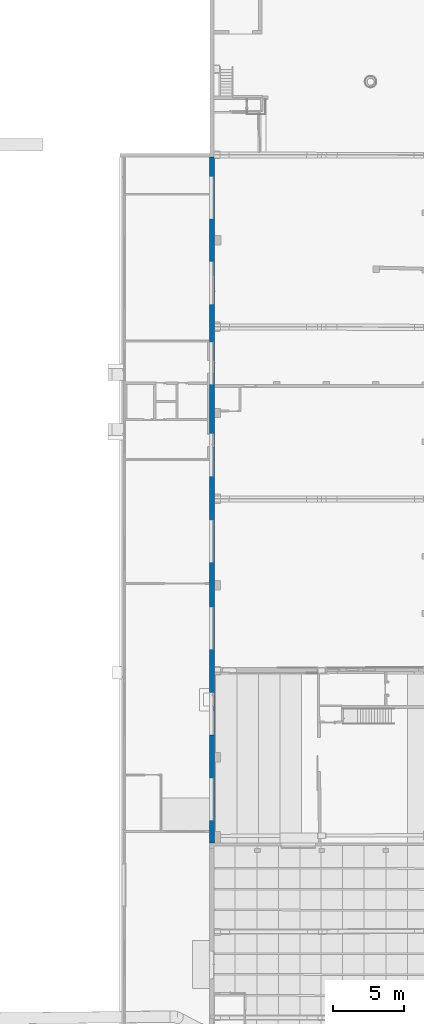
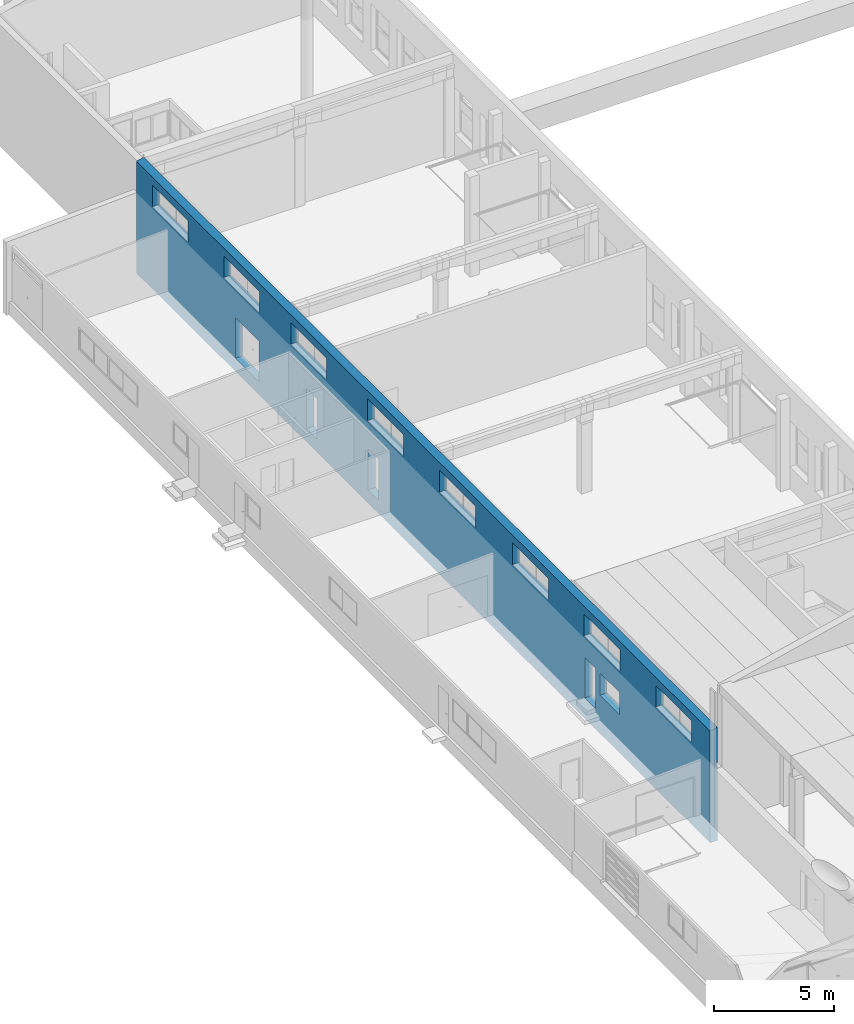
# One storey, part 106 of 301: 1 wall, 13 openings.
"""IFC2X3 building model written with IfcOpenShell, lengths in millimetres."""

from ifc_helpers import new_model, entity, si_unit, converted_unit, derived_unit, money_unit, direction, frame, origin_with_axes, place, context, subcontext, project, spatial, faceted_brep, material, type_object, element, save


model = new_model("IFC2X3")

# Units and contexts
model_context = context("Model", 3, precision=0.01, world=origin_with_axes(), true_north=direction((0.0, 1.0)))
body_context = subcontext(model_context, "Body", "Model", "MODEL_VIEW")
ifc_project = project(units=[si_unit("LENGTHUNIT", "METRE", prefix="MILLI"), si_unit("AREAUNIT", "SQUARE_METRE"), si_unit("VOLUMEUNIT", "CUBIC_METRE"), converted_unit("PLANEANGLEUNIT", "DEGREE", entity("IfcPlaneAngleMeasure", 0.0174532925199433), si_unit("PLANEANGLEUNIT", "RADIAN"), dimensions=[0, 0, 0, 0, 0, 0, 0]), money_unit("EUR"), converted_unit("TIMEUNIT", "Year", entity("IfcTimeMeasure", 31557600.0), si_unit("TIMEUNIT", "SECOND"), dimensions=[0, 0, 1, 0, 0, 0, 0]), si_unit("MASSUNIT", "GRAM", prefix="KILO"), si_unit("THERMODYNAMICTEMPERATUREUNIT", "DEGREE_CELSIUS"), si_unit("LUMINOUSINTENSITYUNIT", "LUMEN"), si_unit("ENERGYUNIT", "JOULE", prefix="MEGA"), derived_unit("THERMALCONDUCTANCEUNIT", [(si_unit("POWERUNIT", "WATT"), 1), (si_unit("LENGTHUNIT", "METRE"), -1), (si_unit("THERMODYNAMICTEMPERATUREUNIT", "KELVIN"), -1)]), derived_unit("SPECIFICHEATCAPACITYUNIT", [(si_unit("ENERGYUNIT", "JOULE"), 1), (si_unit("MASSUNIT", "GRAM", prefix="KILO"), -1), (si_unit("THERMODYNAMICTEMPERATUREUNIT", "KELVIN"), -1)]), derived_unit("MASSDENSITYUNIT", [(si_unit("MASSUNIT", "GRAM", prefix="KILO"), 1), (si_unit("VOLUMEUNIT", "CUBIC_METRE"), -1)])], contexts=[model_context])

# Site, building, storey
site_placement = place(None, frame((0.0, 0.0, 8650.0), z_axis=(0.0, 0.0, 1.0), x_axis=(1.0, 0.0, 0.0)))
site = spatial("IfcSite", under=ifc_project, at=site_placement, Name="43301:001:0844", CompositionType="ELEMENT")
building_placement = place(site_placement, origin_with_axes())
building = spatial("IfcBuilding", under=site, at=building_placement, Name="Kuressaare Ametikooli tuulikute mehaanikute õppekorpus", CompositionType="ELEMENT")
storey_placement = place(building_placement, origin_with_axes())
storey = spatial("IfcBuildingStorey", under=building, at=storey_placement, Name="1.korrus", CompositionType="ELEMENT", Elevation=0.0)

# Wall, openings
ifc_material = material(Name="GENEERILINE - KONSTRUKTRIOON")
wall_type = type_object("IfcWallType", Name="GENEERILINE - KONSTRUKTRIOON 360", PredefinedType="NOTDEFINED")
wall_placement = place(storey_placement, frame((87898.75644683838, 110588.8442993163, -1000.0), z_axis=(0.0, 0.0, 1.0), x_axis=(0.0, -1.0, 0.0)))
wall = element("IfcWall", 1, at=wall_placement, inside=storey, type_object=wall_type, material=ifc_material, Name="SS-XX", context=body_context, shape_type="Brep", body=[
    faceted_brep([(269.9996938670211, 0.0, 5695.980085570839), (270.0024499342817, 359.9999999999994, 5780.099571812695), (270.0024499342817, 359.9999999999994, 4670.000000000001), (270.0021436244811, 319.9895362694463, 4670.000000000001), (270.0021436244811, 319.9895362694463, 669.9999999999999), (270.0024499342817, 359.9999999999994, 669.9999999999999), (270.0024499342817, 359.9999999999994, 0.0), (269.9996938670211, 0.0, 0.0), (48270.56089298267, 360.0000007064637, 5780.099568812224), (48270.56220476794, 7.531752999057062e-10, 5695.980083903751), (48270.55916165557, 359.9999999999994, 4705.0), (47778.5988258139, 360.0000000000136, 4705.0), (47778.59882581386, 360.0000000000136, 5305.0), (47672.08869377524, 360.0000000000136, 5305.0), (47672.08869377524, 360.0000000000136, 5205.0), (47742.08911407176, 360.0000000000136, 5144.999999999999), (47742.08911407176, 360.0000000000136, 4901.665496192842), (47687.08878383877, 360.0000000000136, 4864.998829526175), (47687.08878383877, 360.0000000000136, 4705.0), (47461.95359144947, 359.9999999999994, 4705.0), (47461.95359144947, 359.9999999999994, 1045.0), (48270.55916165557, 359.9999999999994, 1045.0), (48270.56059295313, 359.9999999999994, 0.0), (351.4040718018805, 359.9999999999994, 669.9999999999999), (351.4040718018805, 359.9999999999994, 4670.000000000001), (36339.27712946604, 359.9999999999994, 1044.948629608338), (36339.27712946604, 359.9999999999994, 844.9486296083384), (48270.54238474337, 359.9994725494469, 844.9486296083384), (48270.54238474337, 359.9994725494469, 1044.948629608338), (18506.49852388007, 359.9999999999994, 669.9999999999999), (18506.49852388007, 359.9999999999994, 4820.0), (17866.49843582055, 359.9999999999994, 4820.0), (17866.49843582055, 359.9999999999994, 3065.0), (16384.88347704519, 359.9999999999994, 3065.0), (16384.88347704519, 359.9999999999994, 2890.0), (17866.49843582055, 359.9999999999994, 2890.0), (17866.49843582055, 359.9999999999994, 669.9999999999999), (30562.73090852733, 359.9999999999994, 669.9999999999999), (30562.73090852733, 359.9999999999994, 4820.0), (29922.7308204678, 359.9999999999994, 4820.0), (29922.7308204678, 359.9999999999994, 669.9999999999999), (42598.33752295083, 359.9999999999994, 1045.0), (42598.33752295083, 359.9999999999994, 4705.0), (41928.33752282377, 359.9999999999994, 4705.0), (41928.33752282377, 359.9999999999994, 1045.0), (7589.953886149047, 359.9999999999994, 4189.999999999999), (10574.95388614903, 359.9999999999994, 4189.999999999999), (10574.95388614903, 359.9999999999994, 5290.256977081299), (7589.953886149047, 359.9999999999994, 5290.256977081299), (4604.953886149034, 360.0000000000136, 5290.256977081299), (1619.953886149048, 360.0000000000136, 5290.256977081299), (1619.953886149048, 360.0000000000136, 4189.999999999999), (4604.953886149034, 360.0000000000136, 4189.999999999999), (13199.88347704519, 360.0000000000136, 4189.999999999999), (16184.88347704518, 360.0000000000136, 4189.999999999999), (16184.88347704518, 360.0000000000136, 5290.256977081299), (13199.88347704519, 360.0000000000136, 5290.256977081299), (22616.90572710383, 359.9999999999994, 5290.256977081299), (19631.90572710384, 359.9999999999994, 5290.256977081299), (19631.90572710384, 359.9999999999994, 4189.999999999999), (22616.90572710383, 359.9999999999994, 4189.999999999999), (25653.17193383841, 360.0000000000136, 4189.999999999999), (28638.17193383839, 360.0000000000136, 4189.999999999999), (28638.17193383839, 360.0000000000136, 5290.256977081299), (25653.17193383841, 360.0000000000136, 5290.256977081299), (34745.24283768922, 360.0000000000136, 5290.256977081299), (31760.24283768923, 360.0000000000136, 5290.256977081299), (31760.24283768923, 360.0000000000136, 4189.999999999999), (34745.24283768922, 360.0000000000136, 4189.999999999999), (37736.73588862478, 359.9999999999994, 4189.999999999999), (40721.73588862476, 359.9999999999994, 4189.999999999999), (40721.73588862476, 359.9999999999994, 5290.256977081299), (37736.73588862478, 359.9999999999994, 5290.256977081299), (46718.26084536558, 359.9999999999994, 5290.256977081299), (43733.26084536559, 359.9999999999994, 5290.256977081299), (43733.26084536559, 359.9999999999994, 4189.999999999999), (46718.26084536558, 359.9999999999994, 4189.999999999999), (40714.16374206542, 360.0000000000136, 1947.257518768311), (40714.16374206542, 360.0000000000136, 3087.25751876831), (39044.16374206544, 360.0000000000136, 3087.25751876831), (39044.16374206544, 360.0000000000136, 1947.257518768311), (8565.934094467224, 359.9999999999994, 2730.0), (8565.934094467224, 359.9999999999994, 669.9999999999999), (10545.93409446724, 359.9999999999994, 669.9999999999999), (10545.93409446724, 359.9999999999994, 2730.0), (15395.95735128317, 359.9999999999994, 669.9999999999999), (15395.95735128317, 359.9999999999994, 2740.0), (14495.95735128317, 359.9999999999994, 2740.0), (14495.95735128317, 359.9999999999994, 669.9999999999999), (37794.74311828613, 360.0000000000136, 3105.0), (37794.74311828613, 360.0000000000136, 1045.0), (38674.74311828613, 360.0000000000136, 1045.0), (38674.74311828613, 360.0000000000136, 3105.0), (20550.50682035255, 360.0000000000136, 669.9999999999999), (20550.50682035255, 360.0000000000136, 2770.0), (19650.50682035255, 360.0000000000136, 2770.0), (19650.50682035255, 360.0000000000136, 669.9999999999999), (351.4040718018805, 319.9895362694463, 4670.000000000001), (351.4040718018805, 319.9895362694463, 669.9999999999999), (48270.56200616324, 0.0, 0.0), (10574.95388614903, 0.0, 4189.999999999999), (7589.953886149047, 0.0, 4189.999999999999), (7589.953886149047, 0.0, 5290.256977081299), (10574.95388614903, 0.0, 5290.256977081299), (1619.953886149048, 0.0, 5290.256977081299), (4604.953886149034, 0.0, 5290.256977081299), (4604.953886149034, 0.0, 4189.999999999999), (1619.953886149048, 0.0, 4189.999999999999), (16184.88347704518, 0.0, 4189.999999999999), (13199.88347704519, 0.0, 4189.999999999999), (13199.88347704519, 0.0, 5290.256977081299), (16184.88347704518, 0.0, 5290.256977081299), (19631.90572710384, 0.0, 5290.256977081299), (22616.90572710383, 0.0, 5290.256977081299), (22616.90572710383, 0.0, 4189.999999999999), (19631.90572710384, 0.0, 4189.999999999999), (28638.17193383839, 0.0, 4189.999999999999), (25653.17193383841, 0.0, 4189.999999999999), (25653.17193383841, 0.0, 5290.256977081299), (28638.17193383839, 0.0, 5290.256977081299), (31760.24283768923, 0.0, 5290.256977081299), (34745.24283768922, 0.0, 5290.256977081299), (34745.24283768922, 0.0, 4189.999999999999), (31760.24283768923, 0.0, 4189.999999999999), (40721.73588862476, 0.0, 4189.999999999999), (37736.73588862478, 0.0, 4189.999999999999), (37736.73588862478, 0.0, 5290.256977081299), (40721.73588862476, 0.0, 5290.256977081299), (43733.26084536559, 0.0, 5290.256977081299), (46718.26084536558, 0.0, 5290.256977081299), (46718.26084536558, 0.0, 4189.999999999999), (43733.26084536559, 0.0, 4189.999999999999), (40714.16374206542, 0.0, 3087.25751876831), (40714.16374206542, 0.0, 1947.257518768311), (39044.16374206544, 0.0, 1947.257518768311), (39044.16374206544, 0.0, 3087.25751876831), (8565.934094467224, 0.0, 669.9999999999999), (8565.934094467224, 0.0, 2730.0), (10545.93409446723, 0.0, 2730.0), (10545.93409446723, 0.0, 669.9999999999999), (15395.95735128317, 0.0, 2740.0), (15395.95735128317, 0.0, 669.9999999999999), (14495.95735128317, 0.0, 669.9999999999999), (14495.95735128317, 0.0, 2740.0), (37794.74311828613, 0.0, 1045.0), (37794.74311828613, 0.0, 3105.0), (38674.74311828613, 0.0, 3105.0), (38674.74311828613, 0.0, 1045.0), (20550.50682035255, 0.0, 2770.0), (20550.50682035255, 0.0, 669.9999999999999), (19650.50682035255, 0.0, 669.9999999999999), (19650.50682035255, 0.0, 2770.0), (48270.55916165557, 359.7521975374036, 1045.0), (48270.55916165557, 359.7521975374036, 4705.0), (47707.08976263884, 359.7521975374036, 4705.0), (47687.08988272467, 359.6828913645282, 4704.998829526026), (47687.08988272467, 359.6828913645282, 4864.998829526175), (47742.08955249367, 359.8734833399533, 4901.665496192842), (47742.08955249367, 359.8734833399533, 5144.999999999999), (47672.08997278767, 359.6309117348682, 5205.0), (47672.08997278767, 359.6309117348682, 5305.0), (47687.08964255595, 359.7521975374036, 4705.0), (47461.95359144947, 359.7521975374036, 4705.0), (47461.95359144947, 359.7521975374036, 1045.0), (36339.26629089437, 358.075964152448, 1044.948629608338), (36339.26629089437, 358.075964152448, 844.9486296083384), (18506.49852388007, 359.7521975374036, 669.9999999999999), (18506.49852388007, 359.7521975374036, 4820.0), (17866.49843582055, 359.7521975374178, 4820.0), (17866.49843582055, 359.7521975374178, 3065.0), (17866.49843582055, 359.7521975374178, 2890.0), (17866.49843582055, 359.7521975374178, 669.9999999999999), (30562.73090852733, 359.7521975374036, 669.9999999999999), (30562.73090852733, 359.7521975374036, 4820.0), (29922.7308204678, 359.7521975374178, 4820.0), (29922.7308204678, 359.7521975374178, 669.9999999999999), (42598.33752295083, 359.7521975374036, 1045.0), (42598.33752295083, 359.7521975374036, 4705.0), (41928.33752282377, 359.7521975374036, 4705.0), (41928.33752282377, 359.7521975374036, 1045.0)], [[[0, 1, 2, 3, 4, 5, 6, 7]], [[8, 1, 0, 9]], [[1, 8, 10, 11, 12, 13, 14, 15, 16, 17, 18, 19, 20, 21, 22, 6, 5, 23, 24, 2], [25, 26, 27, 28], [29, 30, 31, 32, 33, 34, 35, 36], [37, 38, 39, 40], [41, 42, 43, 44], [45, 46, 47, 48], [49, 50, 51, 52], [53, 54, 55, 56], [57, 58, 59, 60], [61, 62, 63, 64], [65, 66, 67, 68], [69, 70, 71, 72], [73, 74, 75, 76], [77, 78, 79, 80], [81, 82, 83, 84], [85, 86, 87, 88], [89, 90, 91, 92], [93, 94, 95, 96]], [[3, 2, 24, 97]], [[4, 3, 97, 98]], [[23, 5, 4, 98]], [[99, 7, 6, 22]], [[9, 0, 7, 99], [100, 101, 102, 103], [104, 105, 106, 107], [108, 109, 110, 111], [112, 113, 114, 115], [116, 117, 118, 119], [120, 121, 122, 123], [124, 125, 126, 127], [128, 129, 130, 131], [132, 133, 134, 135], [136, 137, 138, 139], [140, 141, 142, 143], [144, 145, 146, 147], [148, 149, 150, 151]], [[8, 9, 99, 22, 21, 152, 153, 10]], [[154, 11, 10, 153]], [[154, 155, 156, 157, 158, 159, 160, 12, 11]], [[13, 12, 160]], [[159, 14, 13, 160]], [[158, 15, 14, 159]], [[157, 16, 15, 158]], [[156, 17, 16, 157]], [[161, 18, 17, 156, 155]], [[19, 18, 161, 162]], [[20, 19, 162, 163]], [[21, 20, 163, 152]], [[24, 23, 98, 97]], [[164, 165, 26, 25]], [[165, 27, 26]], [[28, 27, 165, 164]], [[164, 25, 28]], [[30, 29, 166, 167]], [[31, 30, 167, 168]], [[32, 31, 168, 169]], [[169, 33, 32]], [[169, 170, 34, 33]], [[35, 34, 170]], [[36, 35, 170, 171]], [[29, 36, 171, 166]], [[38, 37, 172, 173]], [[39, 38, 173, 174]], [[40, 39, 174, 175]], [[37, 40, 175, 172]], [[42, 41, 176, 177]], [[43, 42, 177, 178]], [[44, 43, 178, 179]], [[41, 44, 179, 176]], [[100, 46, 45, 101]], [[103, 47, 46, 100]], [[103, 102, 48, 47]], [[102, 101, 45, 48]], [[50, 49, 105, 104]], [[51, 50, 104, 107]], [[51, 107, 106, 52]], [[52, 106, 105, 49]], [[108, 54, 53, 109]], [[111, 55, 54, 108]], [[111, 110, 56, 55]], [[110, 109, 53, 56]], [[58, 57, 113, 112]], [[59, 58, 112, 115]], [[59, 115, 114, 60]], [[60, 114, 113, 57]], [[116, 62, 61, 117]], [[119, 63, 62, 116]], [[119, 118, 64, 63]], [[118, 117, 61, 64]], [[66, 65, 121, 120]], [[67, 66, 120, 123]], [[67, 123, 122, 68]], [[68, 122, 121, 65]], [[124, 70, 69, 125]], [[127, 71, 70, 124]], [[127, 126, 72, 71]], [[126, 125, 69, 72]], [[74, 73, 129, 128]], [[75, 74, 128, 131]], [[75, 131, 130, 76]], [[76, 130, 129, 73]], [[77, 133, 132, 78]], [[79, 78, 132, 135]], [[80, 79, 135, 134]], [[80, 134, 133, 77]], [[137, 136, 82, 81]], [[139, 83, 82, 136]], [[138, 84, 83, 139]], [[138, 137, 81, 84]], [[85, 141, 140, 86]], [[87, 86, 140, 143]], [[88, 87, 143, 142]], [[88, 142, 141, 85]], [[145, 144, 90, 89]], [[147, 91, 90, 144]], [[146, 92, 91, 147]], [[146, 145, 89, 92]], [[93, 149, 148, 94]], [[95, 94, 148, 151]], [[96, 95, 151, 150]], [[96, 150, 149, 93]], [[163, 162, 161, 154, 153, 152]], [[161, 155, 154]], [[166, 171, 170, 169, 168, 167]], [[175, 174, 173, 172]], [[179, 178, 177, 176]]]),
])
opening_1_placement = place(wall_placement, frame((9082.45388614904, 0.0, 4189.999999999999), z_axis=(0.0, 0.0, 1.0), x_axis=(1.0, 0.0, 0.0)))
element("IfcOpeningElement", 2, at=opening_1_placement, cuts=wall, Name="VA-XX", context=body_context, shape_type="Brep", body=[
    faceted_brep([(1492.499999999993, 230.000000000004, 0.0), (1492.499999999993, 230.000000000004, 1100.256977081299), (1492.499999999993, -1.000000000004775, 1100.256977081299), (1492.499999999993, -1.000000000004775, 0.0), (1492.499999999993, 361.0000000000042, 0.0), (1492.499999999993, 361.0000000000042, 1100.256977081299), (-1492.499999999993, 230.000000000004, 1100.256977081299), (-1492.499999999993, -1.000000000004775, 1100.256977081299), (-1492.499999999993, 361.0000000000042, 1100.256977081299), (-1492.499999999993, -1.000000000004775, 0.0), (-1492.499999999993, 230.000000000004, 0.0), (-1492.499999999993, 361.0000000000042, 0.0)], [[[0, 1, 2, 3]], [[1, 0, 4, 5]], [[6, 7, 2, 1, 5, 8]], [[7, 9, 3, 2]], [[0, 3, 9, 10, 11, 4]], [[5, 4, 11, 8]], [[6, 10, 9, 7]], [[10, 6, 8, 11]]]),
])
opening_2_placement = place(wall_placement, frame((3112.453886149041, 0.0, 4189.999999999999), z_axis=(0.0, 0.0, 1.0), x_axis=(1.0, 0.0, 0.0)))
element("IfcOpeningElement", 3, at=opening_2_placement, cuts=wall, Name="VA-XX", context=body_context, shape_type="Brep", body=[
    faceted_brep([(1492.499999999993, 239.9999999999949, 0.0), (1492.499999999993, 239.9999999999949, 1100.256977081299), (1492.499999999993, -1.000000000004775, 1100.256977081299), (1492.499999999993, -1.000000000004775, 0.0), (1492.499999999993, 361.0000000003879, 0.0), (1492.499999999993, 361.0000000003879, 1100.256977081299), (-1492.499999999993, 240.0000000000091, 1100.256977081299), (-1492.499999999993, -1.000000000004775, 1100.256977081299), (-1492.499999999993, 361.0000000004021, 1100.256977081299), (-1492.499999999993, -1.000000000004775, 0.0), (-1492.499999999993, 240.0000000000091, 0.0), (-1492.499999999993, 361.0000000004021, 0.0)], [[[0, 1, 2, 3]], [[1, 0, 4, 5]], [[6, 7, 2, 1, 5, 8]], [[7, 9, 3, 2]], [[0, 3, 9, 10, 11, 4]], [[5, 4, 11, 8]], [[6, 10, 9, 7]], [[10, 6, 8, 11]]]),
])
opening_3_placement = place(wall_placement, frame((21124.40572710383, 0.0, 4189.999999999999), z_axis=(0.0, 0.0, 1.0), x_axis=(1.0, 0.0, 0.0)))
element("IfcOpeningElement", 4, at=opening_3_placement, cuts=wall, Name="VA-XX", context=body_context, shape_type="Brep", body=[
    faceted_brep([(1492.499999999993, 230.000000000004, 0.0), (1492.499999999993, 230.000000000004, 1100.256977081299), (1492.499999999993, -1.000000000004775, 1100.256977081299), (1492.499999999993, -1.000000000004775, 0.0), (1492.499999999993, 361.0000000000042, 0.0), (1492.499999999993, 361.0000000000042, 1100.256977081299), (-1492.499999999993, 230.000000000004, 1100.256977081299), (-1492.499999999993, -1.000000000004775, 1100.256977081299), (-1492.499999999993, 361.0000000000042, 1100.256977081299), (-1492.499999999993, -1.000000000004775, 0.0), (-1492.499999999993, 230.000000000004, 0.0), (-1492.499999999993, 361.0000000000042, 0.0)], [[[0, 1, 2, 3]], [[1, 0, 4, 5]], [[6, 7, 2, 1, 5, 8]], [[7, 9, 3, 2]], [[0, 3, 9, 10, 11, 4]], [[5, 4, 11, 8]], [[6, 10, 9, 7]], [[10, 6, 8, 11]]]),
])
opening_4_placement = place(wall_placement, frame((14692.38347704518, 0.0, 4189.999999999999), z_axis=(0.0, 0.0, 1.0), x_axis=(1.0, 0.0, 0.0)))
element("IfcOpeningElement", 5, at=opening_4_placement, cuts=wall, Name="VA-XX", context=body_context, shape_type="Brep", body=[
    faceted_brep([(1492.499999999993, 230.000000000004, 0.0), (1492.499999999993, 230.000000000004, 1100.256977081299), (1492.499999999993, -1.000000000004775, 1100.256977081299), (1492.499999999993, -1.000000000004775, 0.0), (1492.499999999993, 361.0000000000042, 0.0), (1492.499999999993, 361.0000000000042, 1100.256977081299), (-1492.499999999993, 230.000000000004, 1100.256977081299), (-1492.499999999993, -1.000000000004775, 1100.256977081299), (-1492.499999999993, 361.0000000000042, 1100.256977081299), (-1492.499999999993, -1.000000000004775, 0.0), (-1492.499999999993, 230.000000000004, 0.0), (-1492.499999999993, 361.0000000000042, 0.0)], [[[0, 1, 2, 3]], [[1, 0, 4, 5]], [[6, 7, 2, 1, 5, 8]], [[7, 9, 3, 2]], [[0, 3, 9, 10, 11, 4]], [[5, 4, 11, 8]], [[6, 10, 9, 7]], [[10, 6, 8, 11]]]),
])
opening_5_placement = place(wall_placement, frame((33252.74283768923, 0.0, 4189.999999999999), z_axis=(0.0, 0.0, 1.0), x_axis=(1.0, 0.0, 0.0)))
element("IfcOpeningElement", 6, at=opening_5_placement, cuts=wall, Name="VA-XX", context=body_context, shape_type="Brep", body=[
    faceted_brep([(1492.499999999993, 230.000000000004, 0.0), (1492.499999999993, 230.000000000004, 1100.256977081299), (1492.499999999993, -1.000000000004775, 1100.256977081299), (1492.499999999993, -1.000000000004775, 0.0), (1492.499999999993, 361.0000000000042, 0.0), (1492.499999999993, 361.0000000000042, 1100.256977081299), (-1492.499999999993, 230.000000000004, 1100.256977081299), (-1492.499999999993, -1.000000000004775, 1100.256977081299), (-1492.499999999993, 361.0000000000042, 1100.256977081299), (-1492.499999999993, -1.000000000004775, 0.0), (-1492.499999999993, 230.000000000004, 0.0), (-1492.499999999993, 361.0000000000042, 0.0)], [[[0, 1, 2, 3]], [[1, 0, 4, 5]], [[6, 7, 2, 1, 5, 8]], [[7, 9, 3, 2]], [[0, 3, 9, 10, 11, 4]], [[5, 4, 11, 8]], [[6, 10, 9, 7]], [[10, 6, 8, 11]]]),
])
opening_6_placement = place(wall_placement, frame((27145.6719338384, 0.0, 4189.999999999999), z_axis=(0.0, 0.0, 1.0), x_axis=(1.0, 0.0, 0.0)))
element("IfcOpeningElement", 7, at=opening_6_placement, cuts=wall, Name="VA-XX", context=body_context, shape_type="Brep", body=[
    faceted_brep([(1492.499999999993, 230.000000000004, 0.0), (1492.499999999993, 230.000000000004, 1100.256977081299), (1492.499999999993, -1.000000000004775, 1100.256977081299), (1492.499999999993, -1.000000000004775, 0.0), (1492.499999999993, 361.0000000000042, 0.0), (1492.499999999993, 361.0000000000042, 1100.256977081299), (-1492.499999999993, 230.000000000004, 1100.256977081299), (-1492.499999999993, -1.000000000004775, 1100.256977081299), (-1492.499999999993, 361.0000000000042, 1100.256977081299), (-1492.499999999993, -1.000000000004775, 0.0), (-1492.499999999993, 230.000000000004, 0.0), (-1492.499999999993, 361.0000000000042, 0.0)], [[[0, 1, 2, 3]], [[1, 0, 4, 5]], [[6, 7, 2, 1, 5, 8]], [[7, 9, 3, 2]], [[0, 3, 9, 10, 11, 4]], [[5, 4, 11, 8]], [[6, 10, 9, 7]], [[10, 6, 8, 11]]]),
])
opening_7_placement = place(wall_placement, frame((39229.23588862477, 0.0, 4189.999999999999), z_axis=(0.0, 0.0, 1.0), x_axis=(1.0, 0.0, 0.0)))
element("IfcOpeningElement", 8, at=opening_7_placement, cuts=wall, Name="VA-XX", context=body_context, shape_type="Brep", body=[
    faceted_brep([(1492.499999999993, 249.9999999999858, 0.0), (1492.499999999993, 249.9999999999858, 1100.256977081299), (1492.499999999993, -1.000000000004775, 1100.256977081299), (1492.499999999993, -1.000000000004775, 0.0), (1492.499999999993, 361.0000000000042, 0.0), (1492.499999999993, 361.0000000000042, 1100.256977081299), (-1492.499999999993, 249.9999999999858, 1100.256977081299), (-1492.499999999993, -1.000000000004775, 1100.256977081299), (-1492.499999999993, 361.0000000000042, 1100.256977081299), (-1492.499999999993, -1.000000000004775, 0.0), (-1492.499999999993, 249.9999999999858, 0.0), (-1492.499999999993, 361.0000000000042, 0.0)], [[[0, 1, 2, 3]], [[1, 0, 4, 5]], [[6, 7, 2, 1, 5, 8]], [[7, 9, 3, 2]], [[0, 3, 9, 10, 11, 4]], [[5, 4, 11, 8]], [[6, 10, 9, 7]], [[10, 6, 8, 11]]]),
])
opening_8_placement = place(wall_placement, frame((45225.76084536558, 0.0, 4189.999999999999), z_axis=(0.0, 0.0, 1.0), x_axis=(1.0, 0.0, 0.0)))
element("IfcOpeningElement", 9, at=opening_8_placement, cuts=wall, Name="VA-XX", context=body_context, shape_type="Brep", body=[
    faceted_brep([(1492.499999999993, 249.9999999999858, 0.0), (1492.499999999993, 249.9999999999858, 1100.256977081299), (1492.499999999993, -1.000000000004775, 1100.256977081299), (1492.499999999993, -1.000000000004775, 0.0), (1492.499999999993, 361.0000000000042, 0.0), (1492.499999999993, 361.0000000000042, 1100.256977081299), (-1492.499999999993, 249.9999999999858, 1100.256977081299), (-1492.499999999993, -1.000000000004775, 1100.256977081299), (-1492.499999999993, 361.0000000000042, 1100.256977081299), (-1492.499999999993, -1.000000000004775, 0.0), (-1492.499999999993, 249.9999999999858, 0.0), (-1492.499999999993, 361.0000000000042, 0.0)], [[[0, 1, 2, 3]], [[1, 0, 4, 5]], [[6, 7, 2, 1, 5, 8]], [[7, 9, 3, 2]], [[0, 3, 9, 10, 11, 4]], [[5, 4, 11, 8]], [[6, 10, 9, 7]], [[10, 6, 8, 11]]]),
])
opening_9_placement = place(wall_placement, frame((39879.16374206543, 0.0, 1947.257518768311), z_axis=(0.0, 0.0, 1.0), x_axis=(1.0, 0.0, 0.0)))
element("IfcOpeningElement", 10, at=opening_9_placement, cuts=wall, Name="SA-XX", context=body_context, shape_type="Brep", body=[
    faceted_brep([(-834.9999999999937, 329.9999999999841, 0.0), (-834.9999999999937, 329.9999999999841, 1140.0), (-834.9999999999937, 361.0000000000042, 1140.0), (-834.9999999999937, 361.0000000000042, 0.0), (-834.9999999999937, -1.000000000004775, 0.0), (-834.9999999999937, -1.000000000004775, 1140.0), (834.9999999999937, 329.9999999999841, 1140.0), (834.9999999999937, 361.0000000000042, 1140.0), (834.9999999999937, -1.000000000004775, 1140.0), (834.9999999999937, 361.0000000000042, 0.0), (834.9999999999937, 329.9999999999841, 0.0), (834.9999999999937, -1.000000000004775, 0.0)], [[[0, 1, 2, 3]], [[1, 0, 4, 5]], [[6, 7, 2, 1, 5, 8]], [[7, 9, 3, 2]], [[0, 3, 9, 10, 11, 4]], [[5, 4, 11, 8]], [[6, 10, 9, 7]], [[10, 6, 8, 11]]]),
])
opening_10_placement = place(wall_placement, frame((9555.934094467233, 0.0, 669.9999999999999), z_axis=(0.0, 0.0, 1.0), x_axis=(1.0, 0.0, 0.0)))
element("IfcOpeningElement", 11, at=opening_10_placement, cuts=wall, Name="SU-XX", context=body_context, shape_type="Brep", body=[
    faceted_brep([(-990.0000000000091, 319.9999999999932, 0.0), (-990.0000000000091, 319.9999999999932, 2060.0), (-990.0000000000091, 361.0000000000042, 2060.0), (-990.0000000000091, 361.0000000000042, 0.0), (-990.0000000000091, -1.000000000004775, 0.0), (-990.0000000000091, -1.000000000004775, 2060.0), (989.9999999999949, 319.9999999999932, 2060.0), (990.0000000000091, 361.0000000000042, 2060.0), (989.9999999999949, -1.000000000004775, 2060.0), (990.0000000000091, 361.0000000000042, 0.0), (989.9999999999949, 319.9999999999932, 0.0), (989.9999999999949, -1.000000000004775, 0.0)], [[[0, 1, 2, 3]], [[1, 0, 4, 5]], [[6, 7, 2, 1, 5, 8]], [[7, 9, 3, 2]], [[0, 3, 9, 10, 11, 4]], [[5, 4, 11, 8]], [[6, 10, 9, 7]], [[10, 6, 8, 11]]]),
])
opening_11_placement = place(wall_placement, frame((14945.95735128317, 0.0, 669.9999999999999), z_axis=(0.0, 0.0, 1.0), x_axis=(1.0, 0.0, 0.0)))
element("IfcOpeningElement", 12, at=opening_11_placement, cuts=wall, Name="SU-XX", context=body_context, shape_type="Brep", body=[
    faceted_brep([(-450.0000000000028, 319.9999999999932, 0.0), (-450.0000000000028, 319.9999999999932, 2070.0), (-450.0000000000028, 361.0000000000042, 2070.0), (-450.0000000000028, 361.0000000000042, 0.0), (-450.0000000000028, -1.000000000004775, 0.0), (-450.0000000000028, -1.000000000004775, 2070.0), (450.0000000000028, 319.9999999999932, 2070.0), (450.0000000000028, 361.0000000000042, 2070.0), (450.0000000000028, -1.000000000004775, 2070.0), (450.0000000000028, 361.0000000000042, 0.0), (450.0000000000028, 319.9999999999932, 0.0), (450.0000000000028, -1.000000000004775, 0.0)], [[[0, 1, 2, 3]], [[1, 0, 4, 5]], [[6, 7, 2, 1, 5, 8]], [[7, 9, 3, 2]], [[0, 3, 9, 10, 11, 4]], [[5, 4, 11, 8]], [[6, 10, 9, 7]], [[10, 6, 8, 11]]]),
])
opening_12_placement = place(wall_placement, frame((38234.74311828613, 0.0, 1045.0), z_axis=(0.0, 0.0, 1.0), x_axis=(1.0, 0.0, 0.0)))
element("IfcOpeningElement", 13, at=opening_12_placement, cuts=wall, Name="SU-XX", context=body_context, shape_type="Brep", body=[
    faceted_brep([(-439.9999999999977, 314.9999999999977, 0.0), (-439.9999999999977, 314.9999999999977, 2060.0), (-439.9999999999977, 361.0000000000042, 2060.0), (-439.9999999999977, 361.0000000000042, 0.0), (-439.9999999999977, -1.000000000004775, 0.0), (-439.9999999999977, -1.000000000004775, 2060.0), (439.9999999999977, 314.9999999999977, 2060.0), (439.9999999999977, 361.0000000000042, 2060.0), (439.9999999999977, -1.000000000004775, 2060.0), (439.9999999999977, 361.0000000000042, 0.0), (439.9999999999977, 314.9999999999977, 0.0), (439.9999999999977, -1.000000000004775, 0.0)], [[[0, 1, 2, 3]], [[1, 0, 4, 5]], [[6, 7, 2, 1, 5, 8]], [[7, 9, 3, 2]], [[0, 3, 9, 10, 11, 4]], [[5, 4, 11, 8]], [[6, 10, 9, 7]], [[10, 6, 8, 11]]]),
])
opening_13_placement = place(wall_placement, frame((20100.50682035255, 0.0, 669.9999999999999), z_axis=(0.0, 0.0, 1.0), x_axis=(1.0, 0.0, 0.0)))
element("IfcOpeningElement", 14, at=opening_13_placement, cuts=wall, Name="SU-XX", context=body_context, shape_type="Brep", body=[
    faceted_brep([(-450.0000000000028, 310.0000000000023, 0.0), (-450.0000000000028, 310.0000000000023, 2100.0), (-450.0000000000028, 361.0000000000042, 2100.0), (-450.0000000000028, 361.0000000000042, 0.0), (-450.0000000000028, -1.000000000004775, 0.0), (-450.0000000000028, -1.000000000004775, 2100.0), (450.0000000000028, 310.0000000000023, 2100.0), (450.0000000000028, 361.0000000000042, 2100.0), (450.0000000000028, -1.000000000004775, 2100.0), (450.0000000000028, 361.0000000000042, 0.0), (450.0000000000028, 310.0000000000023, 0.0), (450.0000000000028, -1.000000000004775, 0.0)], [[[0, 1, 2, 3]], [[1, 0, 4, 5]], [[6, 7, 2, 1, 5, 8]], [[7, 9, 3, 2]], [[0, 3, 9, 10, 11, 4]], [[5, 4, 11, 8]], [[6, 10, 9, 7]], [[10, 6, 8, 11]]]),
])

save(model, "model.ifc")
